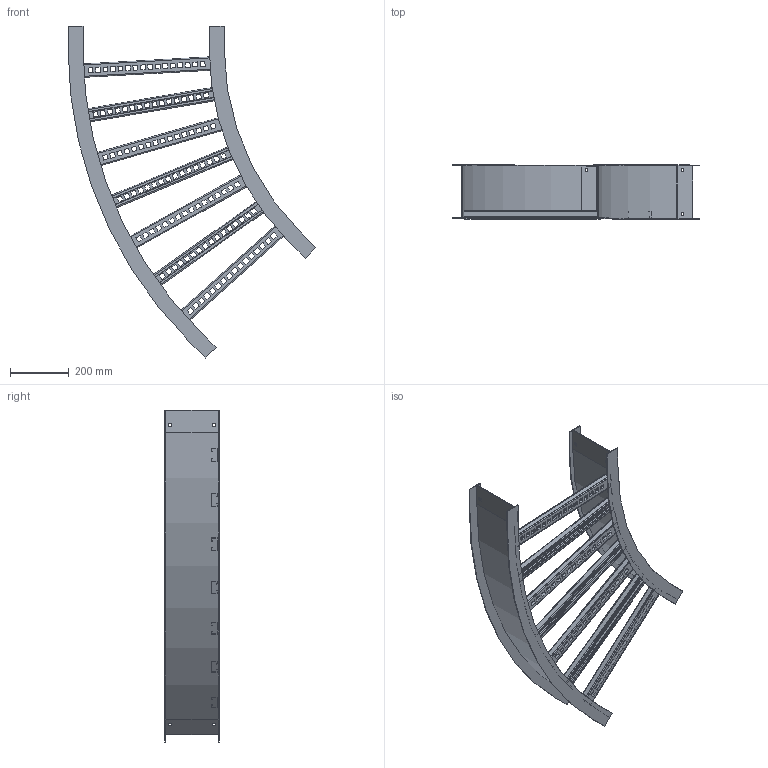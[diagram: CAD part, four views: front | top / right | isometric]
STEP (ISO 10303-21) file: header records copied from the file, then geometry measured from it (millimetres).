
FILE_DESCRIPTION((''),'2;1');
FILE_NAME('AHF718VHB4536_ASM','2010-01-27T',('erouzier'),(''),'PRO/ENGINEER BY PARAMETRIC TECHNOLOGY CORPORATION, 2008510','PRO/ENGINEER BY PARAMETRIC TECHNOLOGY CORPORATION, 2008510','');
FILE_SCHEMA(('CONFIG_CONTROL_DESIGN'));
Length unit declared in the file: inch
Products named in the file (4): CDS001813-7-45-36-I; CDS001813-7-45-54-O; CDS002159L18-P; AHF718VHB4536_ASM
Assembly tree (9 placements, depth 2):
  AHF718VHB4536_ASM
    CDS001813-7-45-36-I
    CDS001813-7-45-54-O
    CDS002159L18-P  x7
Bounding box: 841.73 x 183.9 x 1127.25 mm (x, y, z)
Volume: 1960142.3 mm3; surface area: 1901180.2 mm2
Topology: 9 solids, 9 shells, 1190 faces, 3516 edges, 2344 vertices
Faces by surface type: plane 653, cylinder 537
Entity records: 8286 total; most frequent: CARTESIAN_POINT 1435, ORIENTED_EDGE 1416, DIRECTION 1392, EDGE_CURVE 708, VECTOR 534, LINE 534, VERTEX_POINT 472, AXIS2_PLACEMENT_3D 429
